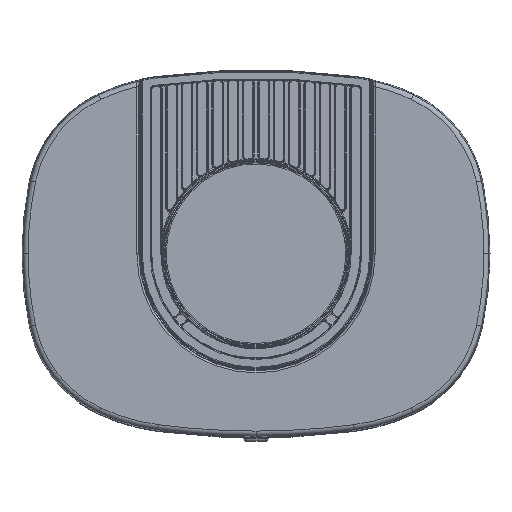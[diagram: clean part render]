
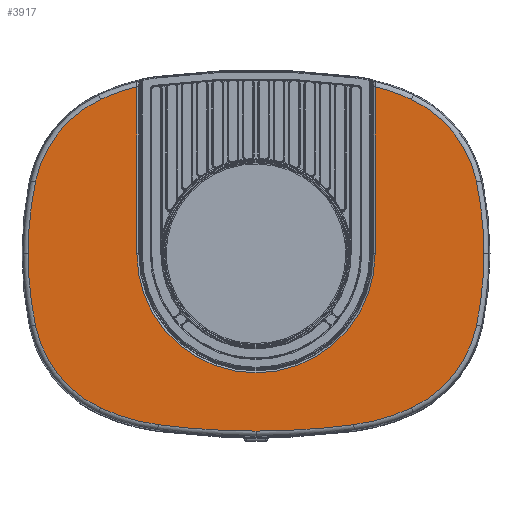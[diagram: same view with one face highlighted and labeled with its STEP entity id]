
A CAD part, top view. The second image highlights one B-rep face of the part: STEP entity #3917.
In plain terms, the highlighted planar face has unit normal (0, 0, 1).
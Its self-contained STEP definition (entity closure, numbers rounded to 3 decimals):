
#3917 = ADVANCED_FACE( '', ( #10002 ), #10003, .F. );
#10002 = FACE_OUTER_BOUND( '', #24724, .T. );
#10003 = PLANE( '', #24725 );
#24724 = EDGE_LOOP( '', ( #77310, #77311, #77312, #77313, #77314, #77315, #77316, #77317, #77318, #77319, #77320, #77321, #77322, #77323, #77324, #77325, #77326 ) );
#24725 = AXIS2_PLACEMENT_3D( '', #77327, #77328, #77329 );
#77310 = ORIENTED_EDGE( '', *, *, #96519, .F. );
#77311 = ORIENTED_EDGE( '', *, *, #96520, .F. );
#77312 = ORIENTED_EDGE( '', *, *, #96521, .F. );
#77313 = ORIENTED_EDGE( '', *, *, #94753, .F. );
#77314 = ORIENTED_EDGE( '', *, *, #95307, .T. );
#77315 = ORIENTED_EDGE( '', *, *, #96522, .T. );
#77316 = ORIENTED_EDGE( '', *, *, #96523, .T. );
#77317 = ORIENTED_EDGE( '', *, *, #96524, .T. );
#77318 = ORIENTED_EDGE( '', *, *, #96525, .T. );
#77319 = ORIENTED_EDGE( '', *, *, #96526, .T. );
#77320 = ORIENTED_EDGE( '', *, *, #96527, .T. );
#77321 = ORIENTED_EDGE( '', *, *, #96528, .T. );
#77322 = ORIENTED_EDGE( '', *, *, #96529, .T. );
#77323 = ORIENTED_EDGE( '', *, *, #96530, .F. );
#77324 = ORIENTED_EDGE( '', *, *, #96531, .F. );
#77325 = ORIENTED_EDGE( '', *, *, #96532, .F. );
#77326 = ORIENTED_EDGE( '', *, *, #96533, .F. );
#77327 = CARTESIAN_POINT( '', ( 0., -850., 915.5 ) );
#77328 = DIRECTION( '', ( 0., 0., -1. ) );
#77329 = DIRECTION( '', ( -1., 0., 0. ) );
#94753 = EDGE_CURVE( '', #102377, #102379, #102380, .F. );
#95307 = EDGE_CURVE( '', #102377, #103352, #103354, .F. );
#96519 = EDGE_CURVE( '', #105457, #105458, #105459, .F. );
#96520 = EDGE_CURVE( '', #105460, #105457, #105461, .F. );
#96521 = EDGE_CURVE( '', #102379, #105460, #105462, .F. );
#96522 = EDGE_CURVE( '', #103352, #105463, #105464, .F. );
#96523 = EDGE_CURVE( '', #105463, #105465, #105466, .F. );
#96524 = EDGE_CURVE( '', #105465, #105467, #105468, .F. );
#96525 = EDGE_CURVE( '', #105467, #105469, #105470, .F. );
#96526 = EDGE_CURVE( '', #105469, #105471, #105472, .F. );
#96527 = EDGE_CURVE( '', #105471, #105473, #105474, .F. );
#96528 = EDGE_CURVE( '', #105473, #105475, #105476, .T. );
#96529 = EDGE_CURVE( '', #105475, #105477, #105478, .T. );
#96530 = EDGE_CURVE( '', #104855, #105477, #105479, .T. );
#96531 = EDGE_CURVE( '', #105480, #104855, #105481, .F. );
#96532 = EDGE_CURVE( '', #105482, #105480, #105483, .F. );
#96533 = EDGE_CURVE( '', #105458, #105482, #105484, .F. );
#102377 = VERTEX_POINT( '', #113902 );
#102379 = VERTEX_POINT( '', #113921 );
#102380 = CIRCLE( '', #113922, 745.815 );
#103352 = VERTEX_POINT( '', #117594 );
#103354 = CIRCLE( '', #117596, 745.815 );
#104855 = VERTEX_POINT( '', #123984 );
#105457 = VERTEX_POINT( '', #125936 );
#105458 = VERTEX_POINT( '', #125937 );
#105459 = CIRCLE( '', #125938, 355.815 );
#105460 = VERTEX_POINT( '', #125939 );
#105461 = CIRCLE( '', #125940, 115.815 );
#105462 = CIRCLE( '', #125941, 195.815 );
#105463 = VERTEX_POINT( '', #125942 );
#105464 = CIRCLE( '', #125943, 195.815 );
#105465 = VERTEX_POINT( '', #125944 );
#105466 = CIRCLE( '', #125945, 115.815 );
#105467 = VERTEX_POINT( '', #125946 );
#105468 = CIRCLE( '', #125947, 355.815 );
#105469 = VERTEX_POINT( '', #125948 );
#105470 = CIRCLE( '', #125949, 355.815 );
#105471 = VERTEX_POINT( '', #125950 );
#105472 = CIRCLE( '', #125951, 115.815 );
#105473 = VERTEX_POINT( '', #125952 );
#105474 = CIRCLE( '', #125953, 195.815 );
#105475 = VERTEX_POINT( '', #125954 );
#105476 = LINE( '', #125955, #125956 );
#105477 = VERTEX_POINT( '', #125957 );
#105478 = CIRCLE( '', #125958, 118.068 );
#105479 = LINE( '', #125959, #125960 );
#105480 = VERTEX_POINT( '', #125961 );
#105481 = CIRCLE( '', #125962, 195.815 );
#105482 = VERTEX_POINT( '', #125963 );
#105483 = CIRCLE( '', #125964, 115.815 );
#105484 = CIRCLE( '', #125965, 355.815 );
#113902 = CARTESIAN_POINT( '', ( 0., -455.815, 915.5 ) );
#113921 = CARTESIAN_POINT( '', ( -96.898, -449.494, 915.5 ) );
#113922 = AXIS2_PLACEMENT_3D( '', #152166, #152167, #152168 );
#117594 = CARTESIAN_POINT( '', ( 96.898, -449.494, 915.5 ) );
#117596 = AXIS2_PLACEMENT_3D( '', #152676, #152677, #152678 );
#123984 = CARTESIAN_POINT( '', ( -118.068, -114.475, 915.5 ) );
#125936 = CARTESIAN_POINT( '', ( -218.661, -350.994, 915.5 ) );
#125937 = CARTESIAN_POINT( '', ( -225.815, -280., 915.5 ) );
#125938 = AXIS2_PLACEMENT_3D( '', #153840, #153841, #153842 );
#125939 = CARTESIAN_POINT( '', ( -153.986, -432.913, 915.5 ) );
#125940 = AXIS2_PLACEMENT_3D( '', #153843, #153844, #153845 );
#125941 = AXIS2_PLACEMENT_3D( '', #153846, #153847, #153848 );
#125942 = CARTESIAN_POINT( '', ( 153.986, -432.913, 915.5 ) );
#125943 = AXIS2_PLACEMENT_3D( '', #153849, #153850, #153851 );
#125944 = CARTESIAN_POINT( '', ( 218.661, -350.994, 915.5 ) );
#125945 = AXIS2_PLACEMENT_3D( '', #153852, #153853, #153854 );
#125946 = CARTESIAN_POINT( '', ( 225.815, -280., 915.5 ) );
#125947 = AXIS2_PLACEMENT_3D( '', #153855, #153856, #153857 );
#125948 = CARTESIAN_POINT( '', ( 218.661, -209.006, 915.5 ) );
#125949 = AXIS2_PLACEMENT_3D( '', #153858, #153859, #153860 );
#125950 = CARTESIAN_POINT( '', ( 153.986, -127.087, 915.5 ) );
#125951 = AXIS2_PLACEMENT_3D( '', #153861, #153862, #153863 );
#125952 = CARTESIAN_POINT( '', ( 118.068, -114.475, 915.5 ) );
#125953 = AXIS2_PLACEMENT_3D( '', #153864, #153865, #153866 );
#125954 = CARTESIAN_POINT( '', ( 118.068, -280., 915.5 ) );
#125955 = CARTESIAN_POINT( '', ( 118.068, -850., 915.5 ) );
#125956 = VECTOR( '', #153867, 1000. );
#125957 = CARTESIAN_POINT( '', ( -118.068, -280., 915.5 ) );
#125958 = AXIS2_PLACEMENT_3D( '', #153868, #153869, #153870 );
#125959 = CARTESIAN_POINT( '', ( -118.068, -850., 915.5 ) );
#125960 = VECTOR( '', #153871, 1000. );
#125961 = CARTESIAN_POINT( '', ( -153.986, -127.087, 915.5 ) );
#125962 = AXIS2_PLACEMENT_3D( '', #153872, #153873, #153874 );
#125963 = CARTESIAN_POINT( '', ( -218.661, -209.006, 915.5 ) );
#125964 = AXIS2_PLACEMENT_3D( '', #153875, #153876, #153877 );
#125965 = AXIS2_PLACEMENT_3D( '', #153878, #153879, #153880 );
#152166 = CARTESIAN_POINT( '', ( 0., 290., 915.5 ) );
#152167 = DIRECTION( '', ( 0., 0., 1. ) );
#152168 = DIRECTION( '', ( 1., 0., 0. ) );
#152676 = CARTESIAN_POINT( '', ( 0., 290., 915.5 ) );
#152677 = DIRECTION( '', ( 0., 0., -1. ) );
#152678 = DIRECTION( '', ( -1., 0., 0. ) );
#153840 = CARTESIAN_POINT( '', ( 130., -280., 915.5 ) );
#153841 = DIRECTION( '', ( 0., 0., 1. ) );
#153842 = DIRECTION( '', ( 1., 0., 0. ) );
#153843 = CARTESIAN_POINT( '', ( -105.174, -327.886, 915.5 ) );
#153844 = DIRECTION( '', ( 0., 0., 1. ) );
#153845 = DIRECTION( '', ( 1., 0., 0. ) );
#153846 = CARTESIAN_POINT( '', ( -71.457, -255.338, 915.5 ) );
#153847 = DIRECTION( '', ( 0., 0., 1. ) );
#153848 = DIRECTION( '', ( 1., 0., 0. ) );
#153849 = CARTESIAN_POINT( '', ( 71.457, -255.338, 915.5 ) );
#153850 = DIRECTION( '', ( 0., 0., -1. ) );
#153851 = DIRECTION( '', ( -1., 0., 0. ) );
#153852 = CARTESIAN_POINT( '', ( 105.174, -327.886, 915.5 ) );
#153853 = DIRECTION( '', ( 0., 0., -1. ) );
#153854 = DIRECTION( '', ( -1., 0., 0. ) );
#153855 = CARTESIAN_POINT( '', ( -130., -280., 915.5 ) );
#153856 = DIRECTION( '', ( 0., 0., -1. ) );
#153857 = DIRECTION( '', ( -1., 0., 0. ) );
#153858 = CARTESIAN_POINT( '', ( -130., -280., 915.5 ) );
#153859 = DIRECTION( '', ( 0., 0., -1. ) );
#153860 = DIRECTION( '', ( -1., 0., 0. ) );
#153861 = CARTESIAN_POINT( '', ( 105.174, -232.114, 915.5 ) );
#153862 = DIRECTION( '', ( 0., 0., -1. ) );
#153863 = DIRECTION( '', ( -1., 0., 0. ) );
#153864 = CARTESIAN_POINT( '', ( 71.457, -304.662, 915.5 ) );
#153865 = DIRECTION( '', ( 0., 0., -1. ) );
#153866 = DIRECTION( '', ( -1., 0., 0. ) );
#153867 = DIRECTION( '', ( 0., -1., 0. ) );
#153868 = CARTESIAN_POINT( '', ( 0., -280., 915.5 ) );
#153869 = DIRECTION( '', ( 0., 0., -1. ) );
#153870 = DIRECTION( '', ( -1., 0., 0. ) );
#153871 = DIRECTION( '', ( 0., -1., 0. ) );
#153872 = CARTESIAN_POINT( '', ( -71.457, -304.662, 915.5 ) );
#153873 = DIRECTION( '', ( 0., 0., 1. ) );
#153874 = DIRECTION( '', ( 1., 0., 0. ) );
#153875 = CARTESIAN_POINT( '', ( -105.174, -232.114, 915.5 ) );
#153876 = DIRECTION( '', ( 0., 0., 1. ) );
#153877 = DIRECTION( '', ( 1., 0., 0. ) );
#153878 = CARTESIAN_POINT( '', ( 130., -280., 915.5 ) );
#153879 = DIRECTION( '', ( 0., 0., 1. ) );
#153880 = DIRECTION( '', ( 1., 0., 0. ) );
